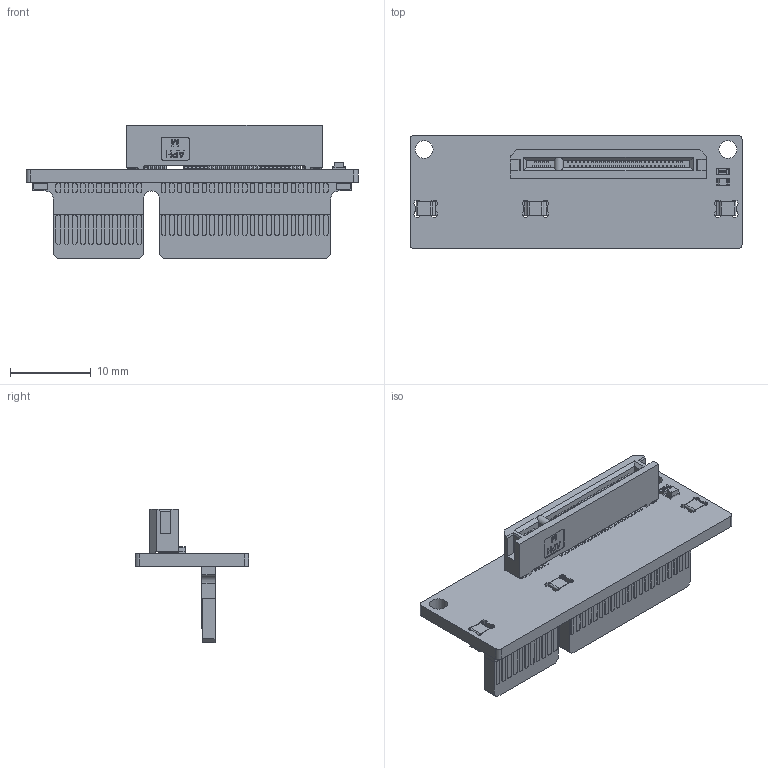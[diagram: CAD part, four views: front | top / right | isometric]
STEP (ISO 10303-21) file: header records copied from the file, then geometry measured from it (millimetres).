
FILE_DESCRIPTION(('Open CASCADE Model'),'2;1');
FILE_NAME('Open CASCADE Shape Model','2026-08-25T13:57:15',('Author'),( 'Open CASCADE'),'Open CASCADE STEP processor 7.5','Open CASCADE 7.5' ,'Unknown');
FILE_SCHEMA(('AUTOMOTIVE_DESIGN { 1 0 10303 214 1 1 1 1 }'));
Length unit declared in the file: millimetre
Products named in the file (14): PCB; Board; Open CASCADE STEP translator 7.5 4.1.1; R1; 0603_RES; Capsule; Encapsulation; TopCover; D1; LED AP1608; CN1; mdt400m0X001vt_c3d; Free-Models; R24C-A V1.0 20260824
Assembly tree (14 placements, depth 4):
  PCB
    Board
      Open CASCADE STEP translator 7.5 4.1.1
    R1
      0603_RES
        Capsule
        Encapsulation  x2
        TopCover
    D1
      LED AP1608
    CN1
      mdt400m0X001vt_c3d
    Free-Models
      R24C-A V1.0 20260824
Bounding box: 41 x 14 x 16.53 mm (x, y, z)
Volume: 1790.5 mm3; surface area: 2903.5 mm2
Topology: 12 solids, 12 shells, 3423 faces, 9442 edges, 6285 vertices
Faces by surface type: plane 2248, cylinder 985, bspline 178, revolution 10, cone 2
Full cylindrical faces by diameter (mm): 1.1 x1, 1.6 x1, 2.2 x2
Entity records: 143234 total; most frequent: CARTESIAN_POINT 26668, ORIENTED_EDGE 18816, DIRECTION 17795, EDGE_CURVE 9408, LINE 6777, VECTOR 6777, VERTEX_POINT 6265, AXIS2_PLACEMENT_3D 5504
